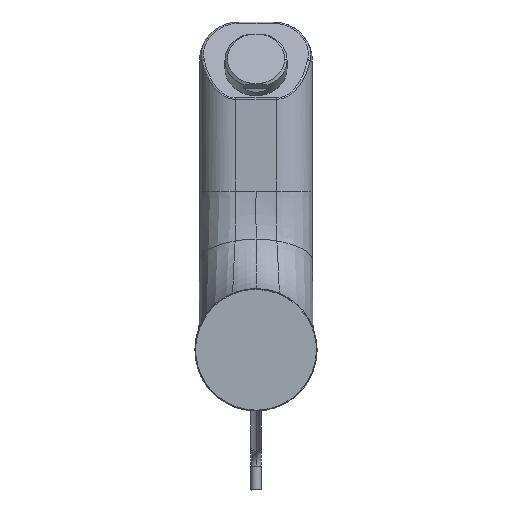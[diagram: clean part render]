
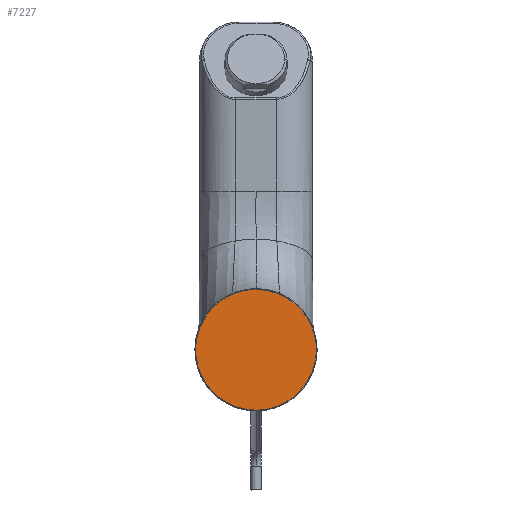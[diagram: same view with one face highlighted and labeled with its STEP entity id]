
A CAD part, front view. The second image highlights one B-rep face of the part: STEP entity #7227.
In plain terms, the highlighted planar face has unit normal (0, -1, 0).
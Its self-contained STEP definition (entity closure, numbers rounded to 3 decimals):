
#486 =( BOUNDED_CURVE ( )  B_SPLINE_CURVE ( 3, ( #12823, #7667, #6522, #5707 ),
 .UNSPECIFIED., .F., .T. ) 
 B_SPLINE_CURVE_WITH_KNOTS ( ( 4, 4 ),
 ( 0., 0.002 ),
 .UNSPECIFIED. ) 
 CURVE ( )  GEOMETRIC_REPRESENTATION_ITEM ( )  RATIONAL_B_SPLINE_CURVE ( ( 1., 1., 1., 1. ) ) 
 REPRESENTATION_ITEM ( '' )  );
#713 = CARTESIAN_POINT ( 'NONE',  ( -0.053, 0., -23.195 ) ) ;
#1056 = ORIENTED_EDGE ( 'NONE', *, *, #5385, .F. ) ;
#1140 = CARTESIAN_POINT ( 'NONE',  ( -46.076, 0., 23.195 ) ) ;
#1594 =( BOUNDED_CURVE ( )  B_SPLINE_CURVE ( 3, ( #5747, #9058, #6892, #6759 ),
 .UNSPECIFIED., .F., .F. ) 
 B_SPLINE_CURVE_WITH_KNOTS ( ( 4, 4 ),
 ( 0.002, 1. ),
 .UNSPECIFIED. ) 
 CURVE ( )  GEOMETRIC_REPRESENTATION_ITEM ( )  RATIONAL_B_SPLINE_CURVE ( ( 1., 0.336, 0.336, 1. ) ) 
 REPRESENTATION_ITEM ( '' )  );
#1660 = CARTESIAN_POINT ( 'NONE',  ( -0.158, 0., -23.194 ) ) ;
#1730 = EDGE_CURVE ( 'NONE', #10143, #4138, #12588, .T. ) ;
#1766 = VERTEX_POINT ( 'NONE', #10235 ) ;
#1781 = VERTEX_POINT ( 'NONE', #4828 ) ;
#1848 = EDGE_CURVE ( 'NONE', #1766, #1781, #1594, .T. ) ;
#2195 = DIRECTION ( 'NONE',  ( 0., -1., 0. ) ) ;
#3528 = CARTESIAN_POINT ( 'NONE',  ( -0.158, 0., -23.194 ) ) ;
#4138 = VERTEX_POINT ( 'NONE', #6264 ) ;
#4225 = PLANE ( 'NONE',  #7377 ) ;
#4323 = ORIENTED_EDGE ( 'NONE', *, *, #11078, .F. ) ;
#4828 = CARTESIAN_POINT ( 'NONE',  ( 0., 0., -23.195 ) ) ;
#5111 = CARTESIAN_POINT ( 'NONE',  ( -46.233, 0., -22.88 ) ) ;
#5385 = EDGE_CURVE ( 'NONE', #1781, #10143, #5732, .T. ) ;
#5398 = ORIENTED_EDGE ( 'NONE', *, *, #1848, .F. ) ;
#5707 = CARTESIAN_POINT ( 'NONE',  ( 0.158, 0., 23.194 ) ) ;
#5732 =( BOUNDED_CURVE ( )  B_SPLINE_CURVE ( 3, ( #9907, #713, #10993, #1660 ),
 .UNSPECIFIED., .F., .T. ) 
 B_SPLINE_CURVE_WITH_KNOTS ( ( 4, 4 ),
 ( 0., 0.002 ),
 .UNSPECIFIED. ) 
 CURVE ( )  GEOMETRIC_REPRESENTATION_ITEM ( )  RATIONAL_B_SPLINE_CURVE ( ( 1., 1., 1., 1. ) ) 
 REPRESENTATION_ITEM ( '' )  );
#5747 = CARTESIAN_POINT ( 'NONE',  ( 0.158, 0., 23.194 ) ) ;
#6264 = CARTESIAN_POINT ( 'NONE',  ( 0., 0., 23.195 ) ) ;
#6451 = FACE_OUTER_BOUND ( 'NONE', #12226, .T. ) ;
#6522 = CARTESIAN_POINT ( 'NONE',  ( 0.105, 0., 23.195 ) ) ;
#6759 = CARTESIAN_POINT ( 'NONE',  ( 0., 0., -23.195 ) ) ;
#6892 = CARTESIAN_POINT ( 'NONE',  ( 46.076, 0., -23.195 ) ) ;
#7227 = ADVANCED_FACE ( 'NONE', ( #6451 ), #4225, .T. ) ;
#7377 = AXIS2_PLACEMENT_3D ( 'NONE', #9429, #2195, #9495 ) ;
#7667 = CARTESIAN_POINT ( 'NONE',  ( 0.053, 0., 23.195 ) ) ;
#8539 = ORIENTED_EDGE ( 'NONE', *, *, #1730, .F. ) ;
#9058 = CARTESIAN_POINT ( 'NONE',  ( 46.233, 0., 22.88 ) ) ;
#9109 = CARTESIAN_POINT ( 'NONE',  ( -0.158, 0., -23.194 ) ) ;
#9429 = CARTESIAN_POINT ( 'NONE',  ( 0., 0., 0. ) ) ;
#9495 = DIRECTION ( 'NONE',  ( 0., 0., -1. ) ) ;
#9907 = CARTESIAN_POINT ( 'NONE',  ( 0., 0., -23.195 ) ) ;
#10143 = VERTEX_POINT ( 'NONE', #3528 ) ;
#10235 = CARTESIAN_POINT ( 'NONE',  ( 0.158, 0., 23.194 ) ) ;
#10993 = CARTESIAN_POINT ( 'NONE',  ( -0.105, 0., -23.195 ) ) ;
#11078 = EDGE_CURVE ( 'NONE', #4138, #1766, #486, .T. ) ;
#12226 = EDGE_LOOP ( 'NONE', ( #1056, #5398, #4323, #8539 ) ) ;
#12588 =( BOUNDED_CURVE ( )  B_SPLINE_CURVE ( 3, ( #9109, #5111, #1140, #13313 ),
 .UNSPECIFIED., .F., .T. ) 
 B_SPLINE_CURVE_WITH_KNOTS ( ( 4, 4 ),
 ( 0.002, 1. ),
 .UNSPECIFIED. ) 
 CURVE ( )  GEOMETRIC_REPRESENTATION_ITEM ( )  RATIONAL_B_SPLINE_CURVE ( ( 1., 0.336, 0.336, 1. ) ) 
 REPRESENTATION_ITEM ( '' )  );
#12823 = CARTESIAN_POINT ( 'NONE',  ( 0., 0., 23.195 ) ) ;
#13313 = CARTESIAN_POINT ( 'NONE',  ( 0., 0., 23.195 ) ) ;
